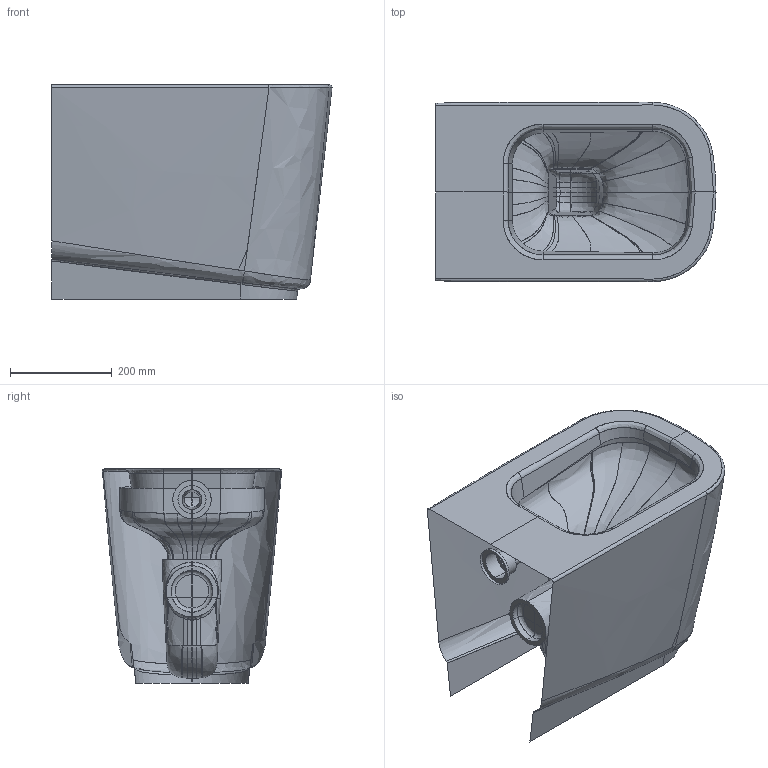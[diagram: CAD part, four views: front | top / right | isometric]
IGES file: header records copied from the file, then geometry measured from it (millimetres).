
Start section: START RECORD GO HERE.
Global section: file name: Vaso terra MEG.igs; native system: IBM CATIA IGES - CATIA Version 5 Release 17 ; preprocessor: CATIA Version 5 Release 17 ; author: Luca; organization: PC-Luca; date: 20120723.204944; units: millimetre
Bounding box: 549.42 x 352.52 x 420 mm (x, y, z)
Surface area: 1089904.7 mm2 (no closed solid volume)
Topology: 0 solids, 0 shells, 284 faces, 2234 edges, 2226 vertices
Faces by surface type: bspline 284
